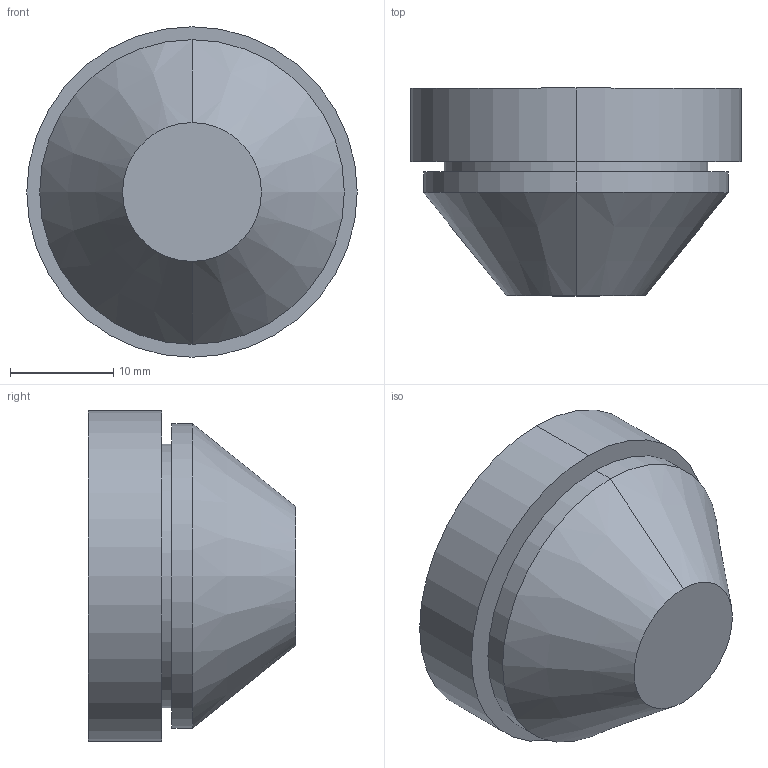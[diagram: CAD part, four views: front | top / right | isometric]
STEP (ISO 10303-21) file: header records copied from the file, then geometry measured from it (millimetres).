
FILE_DESCRIPTION (( 'STEP AP203' ), '1' );
FILE_NAME ('100574.STEP', '2012-10-25T05:15:29', ( 'Joni' ), ( 'Hewlett-Packard Company' ), 'SwSTEP 2.0', 'SolidWorks 2012', '' );
FILE_SCHEMA (( 'CONFIG_CONTROL_DESIGN' ));
Length unit declared in the file: millimetre
Products named in the file (1): 100574
Bounding box: 32 x 20.1 x 32 mm (x, y, z)
Volume: 11376.8 mm3; surface area: 3256.7 mm2
Topology: 1 solids, 1 shells, 12 faces, 22 edges, 14 vertices
Faces by surface type: cylinder 6, plane 4, cone 2
Entity records: 381 total; most frequent: DIRECTION 62, CARTESIAN_POINT 49, ORIENTED_EDGE 44, AXIS2_PLACEMENT_3D 27, EDGE_CURVE 22, CIRCLE 14, VERTEX_POINT 14, EDGE_LOOP 14
